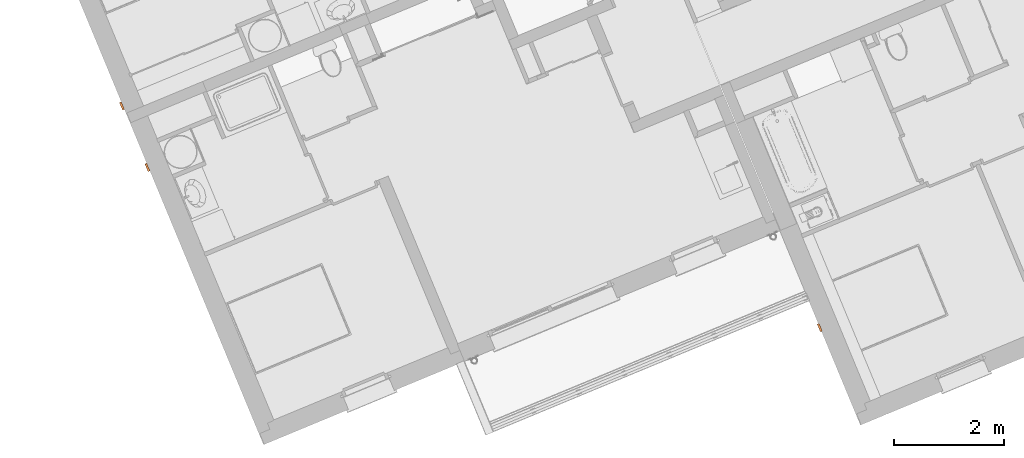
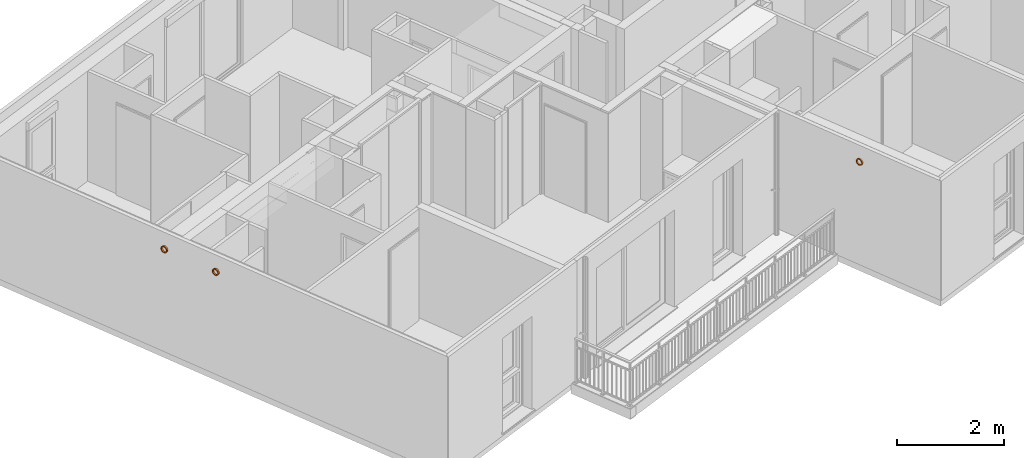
# One storey, part 87 of 90: 3 proxies.
"""IFC2X3 building model written with IfcOpenShell, lengths in metres."""

from ifc_helpers import new_model, entity, si_unit, converted_unit, derived_unit, money_unit, direction, frame, origin_with_axes, place, context, subcontext, project, spatial, faceted_brep, source, transform, mapped, type_object, element, save


model = new_model("IFC2X3")

# Units and contexts
model_context = context("Model", 3, precision=1e-05, world=origin_with_axes(), true_north=direction((0.0, 1.0)))
body_context = subcontext(model_context, "Body", "Model", "MODEL_VIEW")
ifc_project = project(units=[si_unit("LENGTHUNIT", "METRE"), si_unit("AREAUNIT", "SQUARE_METRE"), si_unit("VOLUMEUNIT", "CUBIC_METRE"), converted_unit("PLANEANGLEUNIT", "DEGREE", entity("IfcPlaneAngleMeasure", 0.0174532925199), si_unit("PLANEANGLEUNIT", "RADIAN"), dimensions=[0, 0, 0, 0, 0, 0, 0]), si_unit("SOLIDANGLEUNIT", "STERADIAN"), money_unit("EUR"), converted_unit("TIMEUNIT", "Year", entity("IfcTimeMeasure", 31556926.0), si_unit("TIMEUNIT", "SECOND"), dimensions=[0, 0, 1, 0, 0, 0, 0]), si_unit("MASSUNIT", "GRAM", prefix="KILO"), si_unit("THERMODYNAMICTEMPERATUREUNIT", "DEGREE_CELSIUS"), si_unit("LUMINOUSINTENSITYUNIT", "LUMEN"), si_unit("ENERGYUNIT", "JOULE", prefix="MEGA"), derived_unit("THERMALCONDUCTANCEUNIT", [(si_unit("POWERUNIT", "WATT"), 1), (si_unit("LENGTHUNIT", "METRE"), -1), (si_unit("THERMODYNAMICTEMPERATUREUNIT", "KELVIN"), -1)]), derived_unit("SPECIFICHEATCAPACITYUNIT", [(si_unit("ENERGYUNIT", "JOULE"), 1), (si_unit("MASSUNIT", "GRAM", prefix="KILO"), -1), (si_unit("THERMODYNAMICTEMPERATUREUNIT", "KELVIN"), -1)]), derived_unit("MASSDENSITYUNIT", [(si_unit("MASSUNIT", "GRAM", prefix="KILO"), 1), (si_unit("VOLUMEUNIT", "CUBIC_METRE"), -1)])], contexts=[model_context])

# Site, building, storey
site_placement = place(None, origin_with_axes())
site = spatial("IfcSite", under=ifc_project, at=site_placement, Name="Site", CompositionType="ELEMENT")
building_placement = place(site_placement, origin_with_axes())
building = spatial("IfcBuilding", under=site, at=building_placement, Name="Bâtiment", CompositionType="ELEMENT")
storey_placement = place(building_placement, frame((0.0, 0.0, 2.72), z_axis=(0.0, 0.0, 1.0), x_axis=(1.0, 0.0, 0.0)))
storey = spatial("IfcBuildingStorey", under=building, at=storey_placement, Name="R+1", CompositionType="ELEMENT", Elevation=2.72)

# Proxies
building_element_proxy_type = type_object("IfcBuildingElementProxyType", Name="Tube évidé 23", PredefinedType="NOTDEFINED")
shared_shape = source(origin_with_axes(), body_context, "Body", "Brep", [
    faceted_brep([(0.0, 0.0, -0.075), (0.0, 0.0194114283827, -0.0724444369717), (0.0, 0.0375, -0.0649519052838), (0.0, 0.053033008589, -0.053033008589), (0.0, 0.0649519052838, -0.0375), (0.0, 0.0724444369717, -0.0194114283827), (0.0, 0.075, 0.0), (0.0, 0.0724444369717, 0.0194114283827), (0.0, 0.0649519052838, 0.0375), (0.0, 0.053033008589, 0.053033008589), (0.0, 0.0375, 0.0649519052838), (0.0, 0.0194114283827, 0.0724444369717), (0.0, 0.0, 0.075), (0.0, -0.0194114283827, 0.0724444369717), (0.0, -0.0375, 0.0649519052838), (0.0, -0.053033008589, 0.053033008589), (0.0, -0.0649519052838, 0.0375), (0.0, -0.0724444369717, 0.0194114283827), (0.0, -0.075, 0.0), (0.0, -0.0724444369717, -0.0194114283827), (0.0, -0.0649519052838, -0.0375), (0.0, -0.053033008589, -0.053033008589), (0.0, -0.0375, -0.0649519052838), (0.0, -0.0194114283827, -0.0724444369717), (0.0, -0.0275, -0.0476313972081), (0.0, -0.0388908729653, -0.0388908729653), (0.0, -0.0476313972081, -0.0275), (0.0, -0.0531259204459, -0.0142350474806), (0.0, -0.055, 0.0), (0.0, -0.0531259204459, 0.0142350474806), (0.0, -0.0476313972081, 0.0275), (0.0, -0.0388908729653, 0.0388908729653), (0.0, -0.0275, 0.0476313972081), (0.0, -0.0142350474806, 0.0531259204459), (0.0, 0.0, 0.055), (0.0, 0.0142350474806, 0.0531259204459), (0.0, 0.0275, 0.0476313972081), (0.0, 0.0388908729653, 0.0388908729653), (0.0, 0.0476313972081, 0.0275), (0.0, 0.0531259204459, 0.0142350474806), (0.0, 0.055, 0.0), (0.0, 0.0531259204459, -0.0142350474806), (0.0, 0.0476313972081, -0.0275), (0.0, 0.0388908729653, -0.0388908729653), (0.0, 0.0275, -0.0476313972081), (0.0, 0.0142350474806, -0.0531259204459), (0.0, 0.0, -0.055), (0.0, -0.0142350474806, -0.0531259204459), (-0.0368596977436, 0.0, -0.075), (-0.0368596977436, 0.0194114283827, -0.0724444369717), (-0.0368596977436, 0.0375, -0.0649519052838), (-0.0368596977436, 0.053033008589, -0.053033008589), (-0.0368596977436, 0.0649519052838, -0.0375), (-0.0368596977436, 0.0724444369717, -0.0194114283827), (-0.0368596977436, 0.075, 0.0), (-0.0368596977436, 0.0724444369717, 0.0194114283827), (-0.0368596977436, 0.0649519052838, 0.0375), (-0.0368596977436, 0.053033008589, 0.053033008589), (-0.0368596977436, 0.0375, 0.0649519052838), (-0.0368596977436, 0.0194114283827, 0.0724444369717), (-0.0368596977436, 0.0, 0.075), (-0.0368596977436, -0.0194114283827, 0.0724444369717), (-0.0368596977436, -0.0375, 0.0649519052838), (-0.0368596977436, -0.053033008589, 0.053033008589), (-0.0368596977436, -0.0649519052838, 0.0375), (-0.0368596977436, -0.0724444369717, 0.0194114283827), (-0.0368596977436, -0.075, 0.0), (-0.0368596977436, -0.0724444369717, -0.0194114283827), (-0.0368596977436, -0.0649519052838, -0.0375), (-0.0368596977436, -0.053033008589, -0.053033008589), (-0.0368596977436, -0.0375, -0.0649519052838), (-0.0368596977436, -0.0194114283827, -0.0724444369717), (-0.0368596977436, -0.0388908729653, -0.0388908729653), (-0.0368596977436, -0.0275, -0.0476313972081), (-0.0368596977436, -0.0476313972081, -0.0275), (-0.0368596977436, -0.0531259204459, -0.0142350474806), (-0.0368596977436, -0.055, 0.0), (-0.0368596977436, -0.0531259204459, 0.0142350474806), (-0.0368596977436, -0.0476313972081, 0.0275), (-0.0368596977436, -0.0388908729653, 0.0388908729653), (-0.0368596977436, -0.0275, 0.0476313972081), (-0.0368596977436, -0.0142350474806, 0.0531259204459), (-0.0368596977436, 0.0, 0.055), (-0.0368596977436, 0.0142350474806, 0.0531259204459), (-0.0368596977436, 0.0275, 0.0476313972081), (-0.0368596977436, 0.0388908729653, 0.0388908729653), (-0.0368596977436, 0.0476313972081, 0.0275), (-0.0368596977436, 0.0531259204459, 0.0142350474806), (-0.0368596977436, 0.055, 0.0), (-0.0368596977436, 0.0531259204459, -0.0142350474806), (-0.0368596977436, 0.0476313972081, -0.0275), (-0.0368596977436, 0.0388908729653, -0.0388908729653), (-0.0368596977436, 0.0275, -0.0476313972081), (-0.0368596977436, 0.0142350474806, -0.0531259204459), (-0.0368596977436, 0.0, -0.055), (-0.0368596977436, -0.0142350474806, -0.0531259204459)], [[[0, 1, 2, 3, 4, 5, 6, 7, 8, 9, 10, 11, 12, 13, 14, 15, 16, 17, 18, 19, 20, 21, 22, 23], [24, 25, 26, 27, 28, 29, 30, 31, 32, 33, 34, 35, 36, 37, 38, 39, 40, 41, 42, 43, 44, 45, 46, 47]], [[48, 49, 1, 0]], [[49, 50, 2, 1]], [[50, 51, 3, 2]], [[51, 52, 4, 3]], [[52, 53, 5, 4]], [[53, 54, 6, 5]], [[54, 55, 7, 6]], [[55, 56, 8, 7]], [[56, 57, 9, 8]], [[57, 58, 10, 9]], [[58, 59, 11, 10]], [[59, 60, 12, 11]], [[60, 61, 13, 12]], [[61, 62, 14, 13]], [[62, 63, 15, 14]], [[63, 64, 16, 15]], [[64, 65, 17, 16]], [[65, 66, 18, 17]], [[66, 67, 19, 18]], [[67, 68, 20, 19]], [[68, 69, 21, 20]], [[69, 70, 22, 21]], [[70, 71, 23, 22]], [[71, 48, 0, 23]], [[72, 25, 24, 73]], [[74, 26, 25, 72]], [[75, 27, 26, 74]], [[76, 28, 27, 75]], [[77, 29, 28, 76]], [[78, 30, 29, 77]], [[79, 31, 30, 78]], [[80, 32, 31, 79]], [[81, 33, 32, 80]], [[82, 34, 33, 81]], [[83, 35, 34, 82]], [[84, 36, 35, 83]], [[85, 37, 36, 84]], [[86, 38, 37, 85]], [[87, 39, 38, 86]], [[88, 40, 39, 87]], [[89, 41, 40, 88]], [[90, 42, 41, 89]], [[91, 43, 42, 90]], [[92, 44, 43, 91]], [[93, 45, 44, 92]], [[94, 46, 45, 93]], [[95, 47, 46, 94]], [[73, 24, 47, 95]], [[70, 69, 68, 67, 66, 65, 64, 63, 62, 61, 60, 59, 58, 57, 56, 55, 54, 53, 52, 51, 50, 49, 48, 71], [92, 91, 90, 89, 88, 87, 86, 85, 84, 83, 82, 81, 80, 79, 78, 77, 76, 75, 74, 72, 73, 95, 94, 93]]]),
])
for number, where, z_axis, x_axis, name in (
    (1, (-20.9092441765, -26.4728226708, 2.35), (0.0, 0.0, 1.0), (-0.923701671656, -0.383112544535, 0.0), "MOB-003"),
    (2, (-33.5685968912, -22.4519450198, 2.35), (0.0, 0.0, 1.0), (-0.92370167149, -0.383112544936, 0.0), "MOB-003"),
    (3, (-33.106248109, -23.5666888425, 2.35), (0.0, 0.0, 1.0), (-0.92370167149, -0.383112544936, 0.0), "MOB-003"),
):
    element("IfcBuildingElementProxy", number, at=place(storey_placement, frame(where, z_axis=z_axis, x_axis=x_axis)), inside=storey, type_object=building_element_proxy_type, Name=name, context=body_context, shape_type="MappedRepresentation", body=[
        mapped(shared_shape, transform((0.0, 0.0, 0.0))),
    ])

save(model, "model.ifc")
